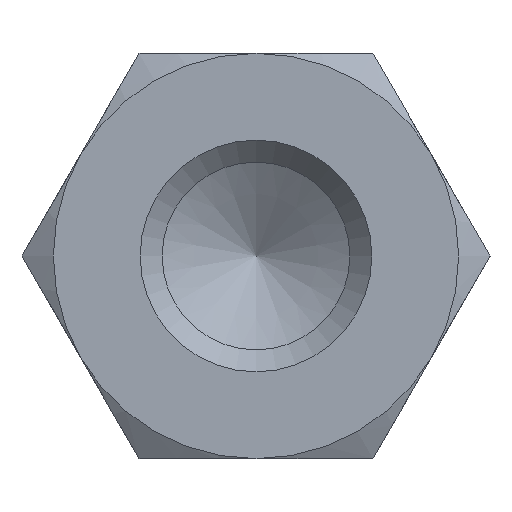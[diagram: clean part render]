
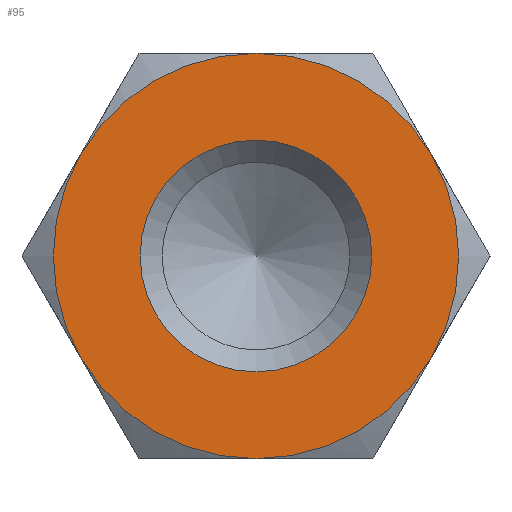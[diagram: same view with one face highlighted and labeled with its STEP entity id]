
A CAD part, left-side view. The second image highlights one B-rep face of the part: STEP entity #95.
In plain terms, the highlighted planar face has unit normal (-1, 0, 0).
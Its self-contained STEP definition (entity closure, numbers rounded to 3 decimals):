
#95 = ADVANCED_FACE( '', ( #147, #148 ), #149, .F. );
#147 = FACE_OUTER_BOUND( '', #206, .T. );
#148 = FACE_BOUND( '', #207, .T. );
#149 = PLANE( '', #208 );
#206 = EDGE_LOOP( '', ( #356, #357, #358, #359, #360, #361 ) );
#207 = EDGE_LOOP( '', ( #362 ) );
#208 = AXIS2_PLACEMENT_3D( '', #363, #364, #365 );
#356 = ORIENTED_EDGE( '', *, *, #440, .F. );
#357 = ORIENTED_EDGE( '', *, *, #425, .F. );
#358 = ORIENTED_EDGE( '', *, *, #441, .F. );
#359 = ORIENTED_EDGE( '', *, *, #437, .F. );
#360 = ORIENTED_EDGE( '', *, *, #442, .F. );
#361 = ORIENTED_EDGE( '', *, *, #443, .F. );
#362 = ORIENTED_EDGE( '', *, *, #439, .T. );
#363 = CARTESIAN_POINT( '', ( -30., 0., 0. ) );
#364 = DIRECTION( '', ( 1., 0., 0. ) );
#365 = DIRECTION( '', ( 0., 0., -1. ) );
#425 = EDGE_CURVE( '', #495, #493, #497, .T. );
#437 = EDGE_CURVE( '', #447, #506, #513, .T. );
#439 = EDGE_CURVE( '', #516, #516, #517, .T. );
#440 = EDGE_CURVE( '', #493, #486, #518, .T. );
#441 = EDGE_CURVE( '', #506, #495, #519, .T. );
#442 = EDGE_CURVE( '', #481, #447, #520, .T. );
#443 = EDGE_CURVE( '', #486, #481, #521, .T. );
#447 = VERTEX_POINT( '', #525 );
#481 = VERTEX_POINT( '', #595 );
#486 = VERTEX_POINT( '', #611 );
#493 = VERTEX_POINT( '', #632 );
#495 = VERTEX_POINT( '', #637 );
#497 = CIRCLE( '', #644, 3.5 );
#506 = VERTEX_POINT( '', #670 );
#513 = CIRCLE( '', #701, 3.5 );
#516 = VERTEX_POINT( '', #704 );
#517 = CIRCLE( '', #705, 2. );
#518 = CIRCLE( '', #706, 3.5 );
#519 = CIRCLE( '', #707, 3.5 );
#520 = CIRCLE( '', #708, 3.5 );
#521 = CIRCLE( '', #709, 3.5 );
#525 = CARTESIAN_POINT( '', ( -30., -3.031, 1.75 ) );
#595 = CARTESIAN_POINT( '', ( -30., 0., 3.5 ) );
#611 = CARTESIAN_POINT( '', ( -30., 3.031, 1.75 ) );
#632 = CARTESIAN_POINT( '', ( -30., 3.031, -1.75 ) );
#637 = CARTESIAN_POINT( '', ( -30., 0., -3.5 ) );
#644 = AXIS2_PLACEMENT_3D( '', #744, #745, #746 );
#670 = CARTESIAN_POINT( '', ( -30., -3.031, -1.75 ) );
#701 = AXIS2_PLACEMENT_3D( '', #749, #750, #751 );
#704 = CARTESIAN_POINT( '', ( -30., 0., -2. ) );
#705 = AXIS2_PLACEMENT_3D( '', #755, #756, #757 );
#706 = AXIS2_PLACEMENT_3D( '', #758, #759, #760 );
#707 = AXIS2_PLACEMENT_3D( '', #761, #762, #763 );
#708 = AXIS2_PLACEMENT_3D( '', #764, #765, #766 );
#709 = AXIS2_PLACEMENT_3D( '', #767, #768, #769 );
#744 = CARTESIAN_POINT( '', ( -30., 0., 0. ) );
#745 = DIRECTION( '', ( 1., 0., 0. ) );
#746 = DIRECTION( '', ( 0., 0., -1. ) );
#749 = CARTESIAN_POINT( '', ( -30., 0., 0. ) );
#750 = DIRECTION( '', ( 1., 0., 0. ) );
#751 = DIRECTION( '', ( 0., 0., -1. ) );
#755 = CARTESIAN_POINT( '', ( -30., 0., 0. ) );
#756 = DIRECTION( '', ( 1., 0., 0. ) );
#757 = DIRECTION( '', ( 0., 0., -1. ) );
#758 = CARTESIAN_POINT( '', ( -30., 0., 0. ) );
#759 = DIRECTION( '', ( 1., 0., 0. ) );
#760 = DIRECTION( '', ( 0., 0., -1. ) );
#761 = CARTESIAN_POINT( '', ( -30., 0., 0. ) );
#762 = DIRECTION( '', ( 1., 0., 0. ) );
#763 = DIRECTION( '', ( 0., 0., -1. ) );
#764 = CARTESIAN_POINT( '', ( -30., 0., 0. ) );
#765 = DIRECTION( '', ( 1., 0., 0. ) );
#766 = DIRECTION( '', ( 0., 0., -1. ) );
#767 = CARTESIAN_POINT( '', ( -30., 0., 0. ) );
#768 = DIRECTION( '', ( 1., 0., 0. ) );
#769 = DIRECTION( '', ( 0., 0., -1. ) );
